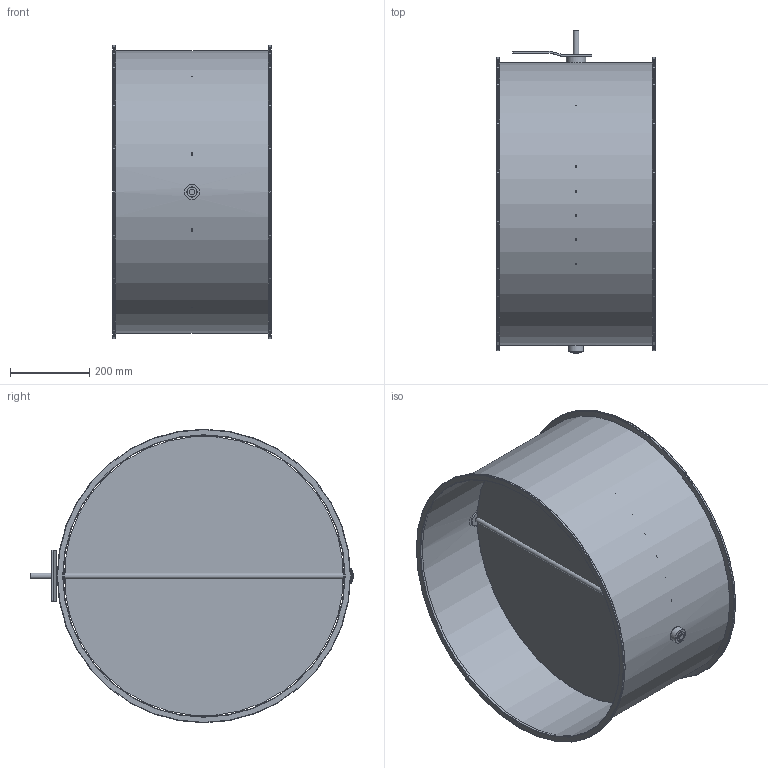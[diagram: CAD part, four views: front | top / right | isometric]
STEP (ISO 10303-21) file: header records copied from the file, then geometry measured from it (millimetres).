
FILE_DESCRIPTION(/* description */ (''),/* implementation_level */ '2;1');
FILE_NAME(/* name */ 'EA114-80B__710_L400_Belimo_Typ_GM.stp',/* time_stamp */ '2017-12-07T10:58:10+01:00',/* author */ (''),/* organization */ (''),/* preprocessor_version */ 'ST-DEVELOPER v11',/* originating_system */ 'SIEMENS UGS NX 6.0',/* authorisation */ '');
FILE_SCHEMA (('CONFIG_CONTROL_DESIGN'));
Length unit declared in the file: millimetre
Products named in the file (1): gars5544kx9v
Bounding box: 400 x 814 x 740 mm (x, y, z)
Volume: 2124930.7 mm3; surface area: 2800534.5 mm2
Topology: 8 solids, 8 shells, 79 faces, 167 edges, 106 vertices
Faces by surface type: plane 36, cylinder 35, torus 6, cone 2
Full cylindrical faces by diameter (mm): 6.1 x7, 15 x3, 25 x3, 25.85 x2, 26 x2, 38 x3, 49 x1, 710 x1, 712 x1, 740 x2
Entity records: 2062 total; most frequent: CARTESIAN_POINT 368, DIRECTION 352, ORIENTED_EDGE 248, AXIS2_PLACEMENT_3D 152, EDGE_LOOP 144, EDGE_CURVE 124, FACE_BOUND 114, VERTEX_POINT 96
